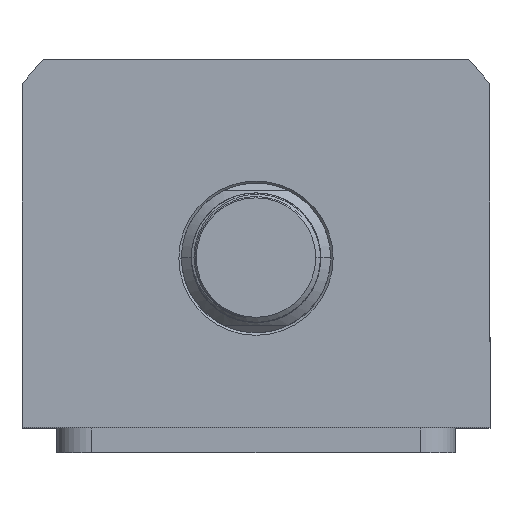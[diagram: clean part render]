
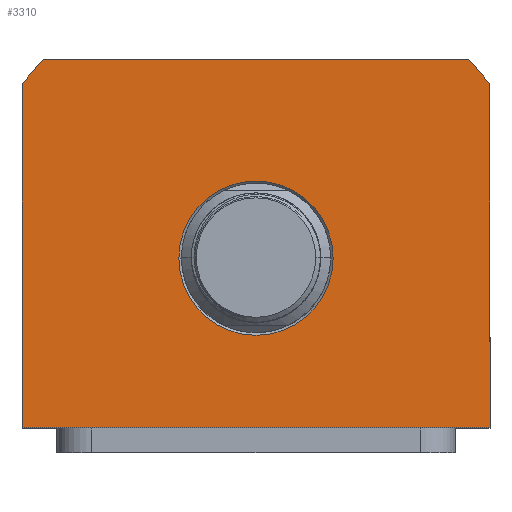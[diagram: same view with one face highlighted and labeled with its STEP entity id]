
A CAD part, top view. The second image highlights one B-rep face of the part: STEP entity #3310.
In plain terms, the highlighted planar face has unit normal (0, 0, 1).
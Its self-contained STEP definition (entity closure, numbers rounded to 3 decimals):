
#95 = AXIS2_PLACEMENT_3D ( 'NONE', #1759, #16728, #15394 ) ;
#223 = DIRECTION ( 'NONE',  ( 0., -1., 0. ) ) ;
#333 = EDGE_CURVE ( 'NONE', #18025, #9480, #12274, .T. ) ;
#607 = CARTESIAN_POINT ( 'NONE',  ( 15.5, 0., 50. ) ) ;
#1169 = CIRCLE ( 'NONE', #4809, 58.5 ) ;
#1759 = CARTESIAN_POINT ( 'NONE',  ( 0., 0., 50. ) ) ;
#1954 = ORIENTED_EDGE ( 'NONE', *, *, #11244, .T. ) ;
#2106 = DIRECTION ( 'NONE',  ( -1., 0., 0. ) ) ;
#2835 = EDGE_CURVE ( 'NONE', #10672, #6378, #16724, .T. ) ;
#2976 = CARTESIAN_POINT ( 'NONE',  ( 0., 0., 50. ) ) ;
#3108 = CARTESIAN_POINT ( 'NONE',  ( 47., 34.832, 50. ) ) ;
#3156 = CARTESIAN_POINT ( 'NONE',  ( 42.688, 40., 50. ) ) ;
#3180 = CARTESIAN_POINT ( 'NONE',  ( 0., 0., 50. ) ) ;
#3310 = ADVANCED_FACE ( 'NONE', ( #15296, #8859 ), #12108, .T. ) ;
#3756 = CARTESIAN_POINT ( 'NONE',  ( 47., -34., 50. ) ) ;
#4021 = ORIENTED_EDGE ( 'NONE', *, *, #333, .T. ) ;
#4809 = AXIS2_PLACEMENT_3D ( 'NONE', #2976, #13643, #7678 ) ;
#4824 = CIRCLE ( 'NONE', #8539, 15.5 ) ;
#4918 = CARTESIAN_POINT ( 'NONE',  ( -47., -34., 50. ) ) ;
#5016 = ORIENTED_EDGE ( 'NONE', *, *, #2835, .T. ) ;
#5293 = CARTESIAN_POINT ( 'NONE',  ( 0., 0., 50. ) ) ;
#5622 = CARTESIAN_POINT ( 'NONE',  ( -15.5, 0., 50. ) ) ;
#6345 = CARTESIAN_POINT ( 'NONE',  ( 47., -34., 50. ) ) ;
#6378 = VERTEX_POINT ( 'NONE', #9414 ) ;
#7345 = VERTEX_POINT ( 'NONE', #3156 ) ;
#7678 = DIRECTION ( 'NONE',  ( 1., 0., 0. ) ) ;
#8103 = EDGE_CURVE ( 'NONE', #7345, #10672, #8358, .T. ) ;
#8129 = CARTESIAN_POINT ( 'NONE',  ( 0., 0., 50. ) ) ;
#8358 = LINE ( 'NONE', #11093, #18139 ) ;
#8539 = AXIS2_PLACEMENT_3D ( 'NONE', #5293, #10109, #10173 ) ;
#8859 = FACE_OUTER_BOUND ( 'NONE', #18839, .T. ) ;
#9414 = CARTESIAN_POINT ( 'NONE',  ( -47., 34.832, 50. ) ) ;
#9480 = VERTEX_POINT ( 'NONE', #16785 ) ;
#9661 = DIRECTION ( 'NONE',  ( 0., 0., -1. ) ) ;
#9985 = ORIENTED_EDGE ( 'NONE', *, *, #14696, .T. ) ;
#10109 = DIRECTION ( 'NONE',  ( 0., 0., -1. ) ) ;
#10173 = DIRECTION ( 'NONE',  ( 1., 0., 0. ) ) ;
#10383 = VECTOR ( 'NONE', #223, 1000. ) ;
#10672 = VERTEX_POINT ( 'NONE', #16621 ) ;
#10719 = DIRECTION ( 'NONE',  ( 1., 0., 0. ) ) ;
#10875 = EDGE_CURVE ( 'NONE', #11767, #18025, #13320, .T. ) ;
#11052 = DIRECTION ( 'NONE',  ( 1., 0., 0. ) ) ;
#11093 = CARTESIAN_POINT ( 'NONE',  ( -42.688, 40., 50. ) ) ;
#11244 = EDGE_CURVE ( 'NONE', #9480, #7345, #1169, .T. ) ;
#11536 = VECTOR ( 'NONE', #16821, 1000. ) ;
#11563 = ORIENTED_EDGE ( 'NONE', *, *, #17739, .T. ) ;
#11767 = VERTEX_POINT ( 'NONE', #16586 ) ;
#11872 = AXIS2_PLACEMENT_3D ( 'NONE', #8129, #9661, #15966 ) ;
#12108 = PLANE ( 'NONE',  #12981 ) ;
#12274 = LINE ( 'NONE', #3108, #11536 ) ;
#12371 = VECTOR ( 'NONE', #11052, 1000. ) ;
#12981 = AXIS2_PLACEMENT_3D ( 'NONE', #3180, #16685, #10719 ) ;
#13244 = CIRCLE ( 'NONE', #11872, 15.5 ) ;
#13320 = LINE ( 'NONE', #6345, #12371 ) ;
#13643 = DIRECTION ( 'NONE',  ( 0., 0., 1. ) ) ;
#13829 = EDGE_LOOP ( 'NONE', ( #19123, #11563 ) ) ;
#14007 = VERTEX_POINT ( 'NONE', #5622 ) ;
#14696 = EDGE_CURVE ( 'NONE', #6378, #11767, #18472, .T. ) ;
#14887 = EDGE_CURVE ( 'NONE', #19369, #14007, #13244, .T. ) ;
#15296 = FACE_BOUND ( 'NONE', #13829, .T. ) ;
#15316 = ORIENTED_EDGE ( 'NONE', *, *, #8103, .T. ) ;
#15394 = DIRECTION ( 'NONE',  ( 1., 0., 0. ) ) ;
#15869 = ORIENTED_EDGE ( 'NONE', *, *, #10875, .T. ) ;
#15966 = DIRECTION ( 'NONE',  ( 1., 0., 0. ) ) ;
#16586 = CARTESIAN_POINT ( 'NONE',  ( -47., -34., 50. ) ) ;
#16621 = CARTESIAN_POINT ( 'NONE',  ( -42.688, 40., 50. ) ) ;
#16685 = DIRECTION ( 'NONE',  ( 0., 0., 1. ) ) ;
#16724 = CIRCLE ( 'NONE', #95, 58.5 ) ;
#16728 = DIRECTION ( 'NONE',  ( 0., 0., 1. ) ) ;
#16785 = CARTESIAN_POINT ( 'NONE',  ( 47., 34.832, 50. ) ) ;
#16821 = DIRECTION ( 'NONE',  ( 0., 1., 0. ) ) ;
#17739 = EDGE_CURVE ( 'NONE', #14007, #19369, #4824, .T. ) ;
#18025 = VERTEX_POINT ( 'NONE', #3756 ) ;
#18139 = VECTOR ( 'NONE', #2106, 1000. ) ;
#18472 = LINE ( 'NONE', #4918, #10383 ) ;
#18839 = EDGE_LOOP ( 'NONE', ( #15869, #4021, #1954, #15316, #5016, #9985 ) ) ;
#19123 = ORIENTED_EDGE ( 'NONE', *, *, #14887, .T. ) ;
#19369 = VERTEX_POINT ( 'NONE', #607 ) ;
